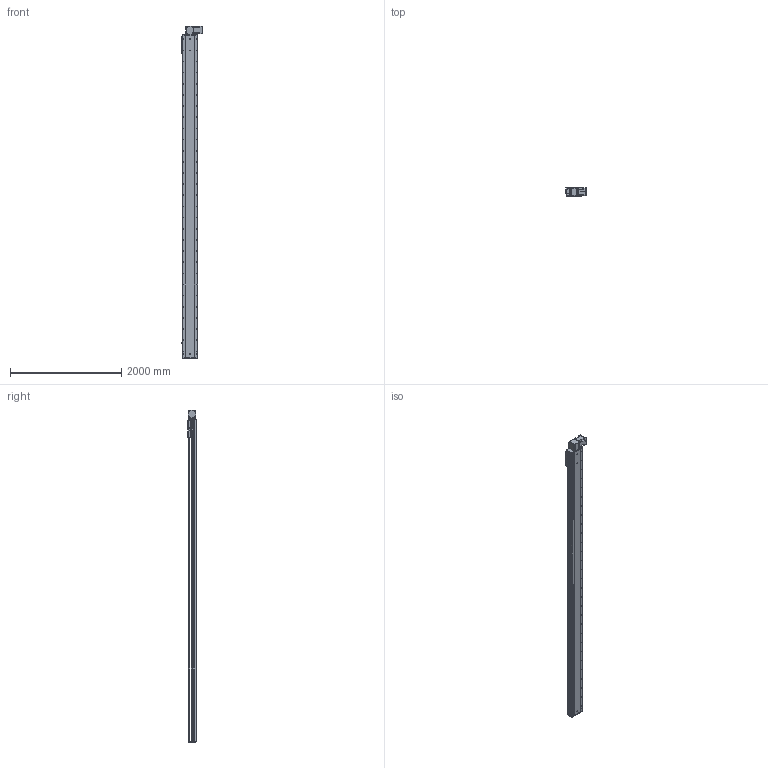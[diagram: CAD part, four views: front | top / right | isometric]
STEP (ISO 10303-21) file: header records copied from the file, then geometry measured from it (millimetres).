
FILE_DESCRIPTION (( 'STEP AP214' ), '1' );
FILE_NAME ('RTB28S-XX-5350-BL-M100-XX-C4.STEP', '2025-12-22T02:54:51', ( '' ), ( '' ), 'SwSTEP 2.0', 'SolidWorks 2018', '' );
FILE_SCHEMA (( 'AUTOMOTIVE_DESIGN' ));
Length unit declared in the file: millimetre
Products named in the file (4): RTB28S-GY-004^RTB28S-XX-XX-BL-M100-XX-C4; RTB28S-GY-011^RTB28S-XX-XX-BL-M100-XX-C4; RTB28S-XX-5350-BL-M100-XX-C4; RTB28S-GY-008^RTB28S-XX-XX-BL-M100-XX-C4
Assembly tree (3 placements, depth 2):
  RTB28S-XX-5350-BL-M100-XX-C4
    RTB28S-GY-011^RTB28S-XX-XX-BL-M100-XX-C4
    RTB28S-GY-004^RTB28S-XX-XX-BL-M100-XX-C4
    RTB28S-GY-008^RTB28S-XX-XX-BL-M100-XX-C4
Bounding box: 380.7 x 145 x 5957 mm (x, y, z)
Volume: 98112325.5 mm3; surface area: 9044572.2 mm2
Topology: 3 solids, 4 shells, 1008 faces, 2748 edges, 1768 vertices
Faces by surface type: cylinder 535, plane 389, cone 80, torus 4
Entity records: 40205 total; most frequent: CARTESIAN_POINT 8302, DIRECTION 5874, ORIENTED_EDGE 5432, EDGE_CURVE 2716, AXIS2_PLACEMENT_3D 2212, VERTEX_POINT 1768, VECTOR 1450, LINE 1450
